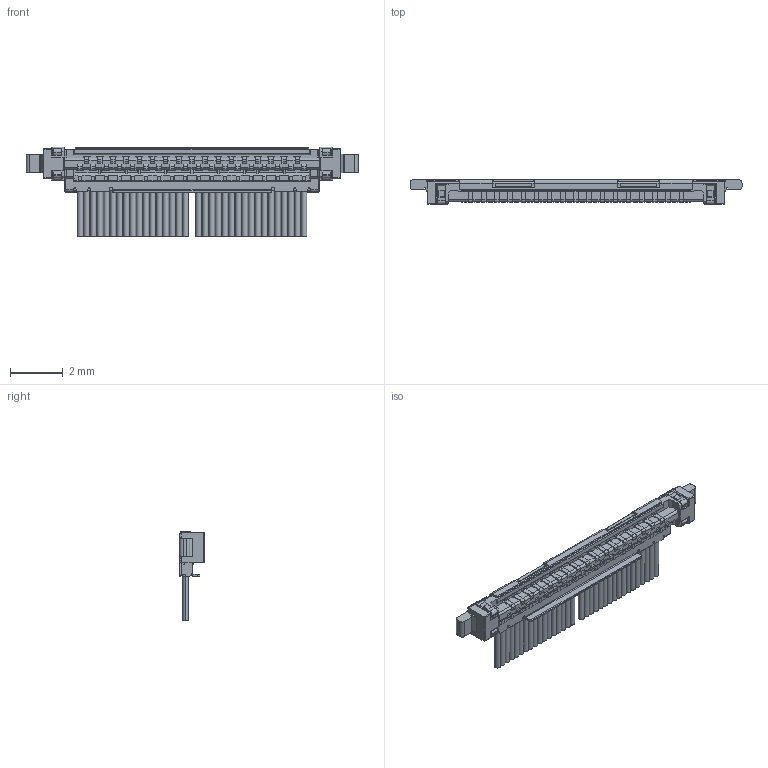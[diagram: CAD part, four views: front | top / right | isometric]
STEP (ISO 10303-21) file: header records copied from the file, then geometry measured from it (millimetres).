
FILE_DESCRIPTION (( 'STEP AP203' ), '1' );
FILE_NAME ('20531-034T-02-1C PLUG CABLE ASS''Y STEP R4R1 ALL.STEP', '2025-12-25T02:03:09', ( '' ), ( '' ), 'SwSTEP 2.0', 'SolidWorks 2023', '' );
FILE_SCHEMA (( 'CONFIG_CONTROL_DESIGN' ));
Length unit declared in the file: millimetre
Products named in the file (1): 20531-034T-02-1C PLUG CABLE ASS''Y STEP R4R1 ALL
Bounding box: 12.6 x 0.94 x 3.41 mm (x, y, z)
Volume: 13.2 mm3; surface area: 113.7 mm2
Topology: 1 solids, 1 shells, 966 faces, 2612 edges, 1676 vertices
Faces by surface type: plane 723, cylinder 239, cone 4
Entity records: 30003 total; most frequent: CARTESIAN_POINT 5303, ORIENTED_EDGE 5224, DIRECTION 5008, EDGE_CURVE 2612, LINE 2118, VECTOR 2118, VERTEX_POINT 1676, AXIS2_PLACEMENT_3D 1445
